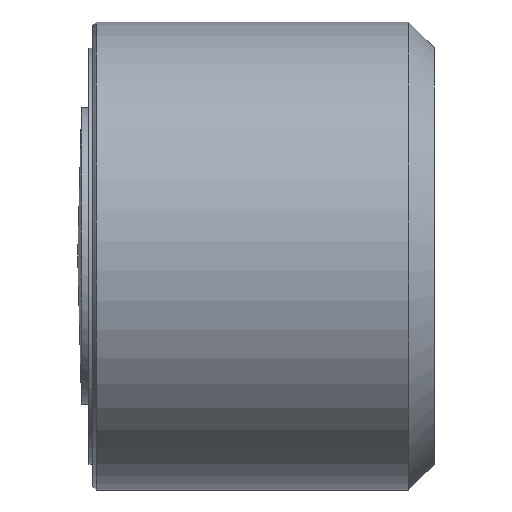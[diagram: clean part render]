
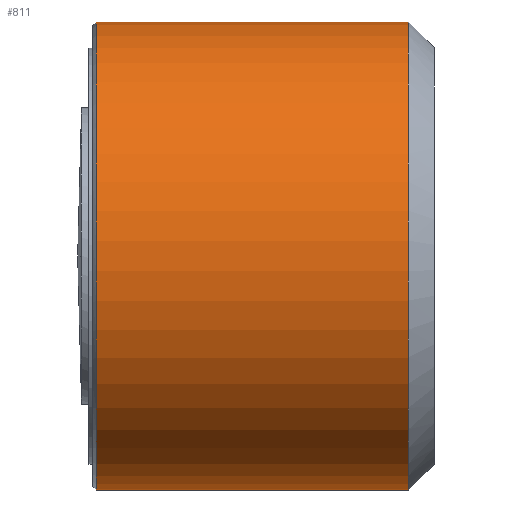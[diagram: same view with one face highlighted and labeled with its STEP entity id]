
A CAD part, left-side view. The second image highlights one B-rep face of the part: STEP entity #811.
In plain terms, the highlighted cylindrical face has radius 6.3 mm (diameter 12.6 mm), a partial arc.
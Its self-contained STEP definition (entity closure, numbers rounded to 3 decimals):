
#48 = CARTESIAN_POINT ( 'NONE',  ( -6.3, -4.1, 0.825 ) ) ;
#90 = EDGE_LOOP ( 'NONE', ( #3152, #1409, #1347, #4383 ) ) ;
#120 = CARTESIAN_POINT ( 'NONE',  ( -0.825, 4.3, 6.3 ) ) ;
#160 = CARTESIAN_POINT ( 'NONE',  ( -5.038, 4.3, -3.872 ) ) ;
#182 = CARTESIAN_POINT ( 'NONE',  ( -5.505, 4.3, 3.173 ) ) ;
#307 = CARTESIAN_POINT ( 'NONE',  ( 0., -4.8, 0. ) ) ;
#490 = CARTESIAN_POINT ( 'NONE',  ( -6.136, -4.1, -1.649 ) ) ;
#512 = CARTESIAN_POINT ( 'NONE',  ( -3.173, -4.1, -5.505 ) ) ;
#650 = B_SPLINE_CURVE_WITH_KNOTS ( 'NONE', 3,
 ( #1080, #120, #5235, #683, #4790, #1101, #182, #3819, #4317, #1521, #2426, #2018, #160, #2939, #3932, #1179, #3061, #2530 ),
 .UNSPECIFIED., .F., .F.,
 ( 4, 2, 2, 2, 2, 2, 2, 2, 4 ),
 ( 3.142, 3.534, 3.927, 4.32, 4.712, 5.105, 5.498, 5.89, 6.283 ),
 .UNSPECIFIED. ) ;
#665 = EDGE_CURVE ( 'NONE', #3728, #4307, #3618, .T. ) ;
#683 = CARTESIAN_POINT ( 'NONE',  ( -3.173, 4.3, 5.505 ) ) ;
#811 = ADVANCED_FACE ( 'NONE', ( #5429 ), #4568, .T. ) ;
#951 = CARTESIAN_POINT ( 'NONE',  ( -5.038, -4.1, -3.872 ) ) ;
#1080 = CARTESIAN_POINT ( 'NONE',  ( 0., 4.3, 6.3 ) ) ;
#1101 = CARTESIAN_POINT ( 'NONE',  ( -5.038, 4.3, 3.872 ) ) ;
#1179 = CARTESIAN_POINT ( 'NONE',  ( -1.649, 4.3, -6.136 ) ) ;
#1347 = ORIENTED_EDGE ( 'NONE', *, *, #4677, .T. ) ;
#1365 = CARTESIAN_POINT ( 'NONE',  ( -1.649, -4.1, -6.136 ) ) ;
#1385 = CARTESIAN_POINT ( 'NONE',  ( -5.505, -4.1, 3.173 ) ) ;
#1409 = ORIENTED_EDGE ( 'NONE', *, *, #2532, .T. ) ;
#1431 = CARTESIAN_POINT ( 'NONE',  ( -5.038, -4.1, 3.872 ) ) ;
#1494 = VECTOR ( 'NONE', #3673, 1000. ) ;
#1521 = CARTESIAN_POINT ( 'NONE',  ( -6.3, 4.3, -0.825 ) ) ;
#1878 = DIRECTION ( 'NONE',  ( 0., -1., 0. ) ) ;
#1893 = CARTESIAN_POINT ( 'NONE',  ( -6.3, -4.1, -0.825 ) ) ;
#2018 = CARTESIAN_POINT ( 'NONE',  ( -5.505, 4.3, -3.173 ) ) ;
#2198 = DIRECTION ( 'NONE',  ( 0., 0., -1. ) ) ;
#2199 = CARTESIAN_POINT ( 'NONE',  ( 0., -4.8, -6.3 ) ) ;
#2348 = CARTESIAN_POINT ( 'NONE',  ( 0., -4.8, 6.3 ) ) ;
#2353 = AXIS2_PLACEMENT_3D ( 'NONE', #307, #3065, #2198 ) ;
#2426 = CARTESIAN_POINT ( 'NONE',  ( -6.136, 4.3, -1.649 ) ) ;
#2530 = CARTESIAN_POINT ( 'NONE',  ( 0., 4.3, -6.3 ) ) ;
#2532 = EDGE_CURVE ( 'NONE', #3728, #2786, #650, .T. ) ;
#2786 = VERTEX_POINT ( 'NONE', #3665 ) ;
#2939 = CARTESIAN_POINT ( 'NONE',  ( -3.872, 4.3, -5.038 ) ) ;
#3061 = CARTESIAN_POINT ( 'NONE',  ( -0.825, 4.3, -6.3 ) ) ;
#3065 = DIRECTION ( 'NONE',  ( 0., -1., 0. ) ) ;
#3152 = ORIENTED_EDGE ( 'NONE', *, *, #665, .F. ) ;
#3243 = CARTESIAN_POINT ( 'NONE',  ( 0., -4.1, 6.3 ) ) ;
#3329 = VECTOR ( 'NONE', #1878, 1000. ) ;
#3425 = CARTESIAN_POINT ( 'NONE',  ( 0., -4.1, -6.3 ) ) ;
#3618 = LINE ( 'NONE', #2348, #3329 ) ;
#3664 = CARTESIAN_POINT ( 'NONE',  ( -3.872, -4.1, 5.038 ) ) ;
#3665 = CARTESIAN_POINT ( 'NONE',  ( 0., 4.3, -6.3 ) ) ;
#3673 = DIRECTION ( 'NONE',  ( 0., -1., 0. ) ) ;
#3707 = CARTESIAN_POINT ( 'NONE',  ( -5.505, -4.1, -3.173 ) ) ;
#3727 = CARTESIAN_POINT ( 'NONE',  ( -0.825, -4.1, -6.3 ) ) ;
#3728 = VERTEX_POINT ( 'NONE', #4748 ) ;
#3819 = CARTESIAN_POINT ( 'NONE',  ( -6.136, 4.3, 1.649 ) ) ;
#3886 = CARTESIAN_POINT ( 'NONE',  ( 0., -4.1, 6.3 ) ) ;
#3932 = CARTESIAN_POINT ( 'NONE',  ( -3.173, 4.3, -5.505 ) ) ;
#4166 = EDGE_CURVE ( 'NONE', #4307, #4995, #5769, .T. ) ;
#4170 = CARTESIAN_POINT ( 'NONE',  ( 0., -4.1, -6.3 ) ) ;
#4208 = CARTESIAN_POINT ( 'NONE',  ( -3.872, -4.1, -5.038 ) ) ;
#4307 = VERTEX_POINT ( 'NONE', #3886 ) ;
#4317 = CARTESIAN_POINT ( 'NONE',  ( -6.3, 4.3, 0.825 ) ) ;
#4383 = ORIENTED_EDGE ( 'NONE', *, *, #4166, .F. ) ;
#4453 = LINE ( 'NONE', #2199, #1494 ) ;
#4568 = CYLINDRICAL_SURFACE ( 'NONE', #2353, 6.3 ) ;
#4624 = CARTESIAN_POINT ( 'NONE',  ( -3.173, -4.1, 5.505 ) ) ;
#4662 = CARTESIAN_POINT ( 'NONE',  ( -6.136, -4.1, 1.649 ) ) ;
#4677 = EDGE_CURVE ( 'NONE', #2786, #4995, #4453, .T. ) ;
#4748 = CARTESIAN_POINT ( 'NONE',  ( 0., 4.3, 6.3 ) ) ;
#4790 = CARTESIAN_POINT ( 'NONE',  ( -3.872, 4.3, 5.038 ) ) ;
#4995 = VERTEX_POINT ( 'NONE', #3425 ) ;
#5066 = CARTESIAN_POINT ( 'NONE',  ( -0.825, -4.1, 6.3 ) ) ;
#5107 = CARTESIAN_POINT ( 'NONE',  ( -1.649, -4.1, 6.136 ) ) ;
#5235 = CARTESIAN_POINT ( 'NONE',  ( -1.649, 4.3, 6.136 ) ) ;
#5429 = FACE_OUTER_BOUND ( 'NONE', #90, .T. ) ;
#5769 = B_SPLINE_CURVE_WITH_KNOTS ( 'NONE', 3,
 ( #3243, #5066, #5107, #4624, #3664, #1431, #1385, #4662, #48, #1893, #490, #3707, #951, #4208, #512, #1365, #3727, #4170 ),
 .UNSPECIFIED., .F., .F.,
 ( 4, 2, 2, 2, 2, 2, 2, 2, 4 ),
 ( 3.142, 3.534, 3.927, 4.32, 4.712, 5.105, 5.498, 5.89, 6.283 ),
 .UNSPECIFIED. ) ;
